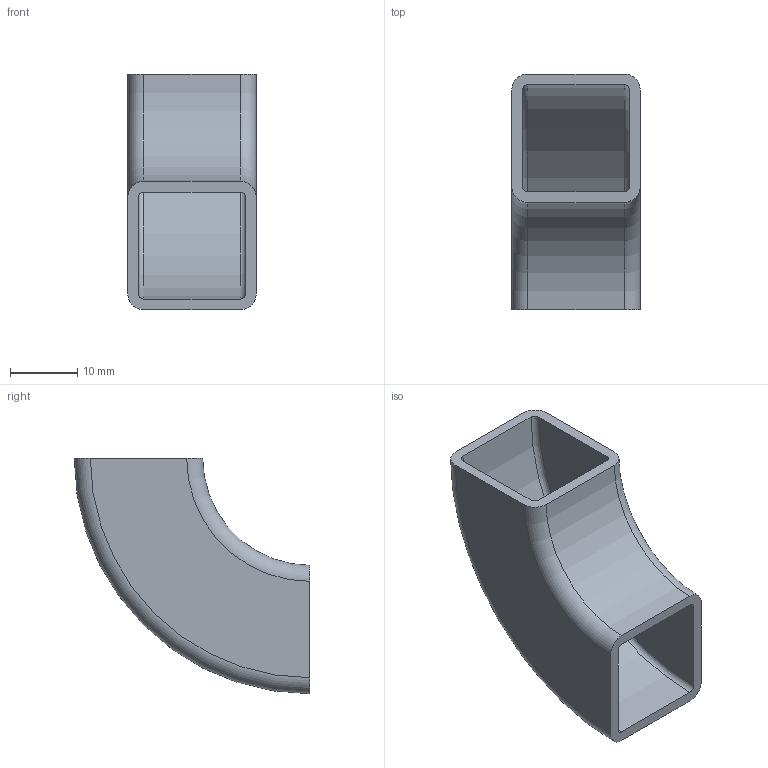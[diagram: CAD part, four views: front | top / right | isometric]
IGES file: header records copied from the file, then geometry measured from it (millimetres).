
Global section: file name: No Iges File Name specified; native system: Autodesk Inventor 2011; preprocessor: AutoDesk Inventor Iges Exporter R2011; author: bamfomg; date: 20110321.072850; units: inch
Bounding box: 19.05 x 34.92 x 34.92 mm (x, y, z)
Volume: 4251.6 mm3; surface area: 5569.4 mm2
Topology: 1 solids, 1 shells, 18 faces, 48 edges, 32 vertices
Faces by surface type: revolution 6, plane 6, torus 4, cylinder 2
